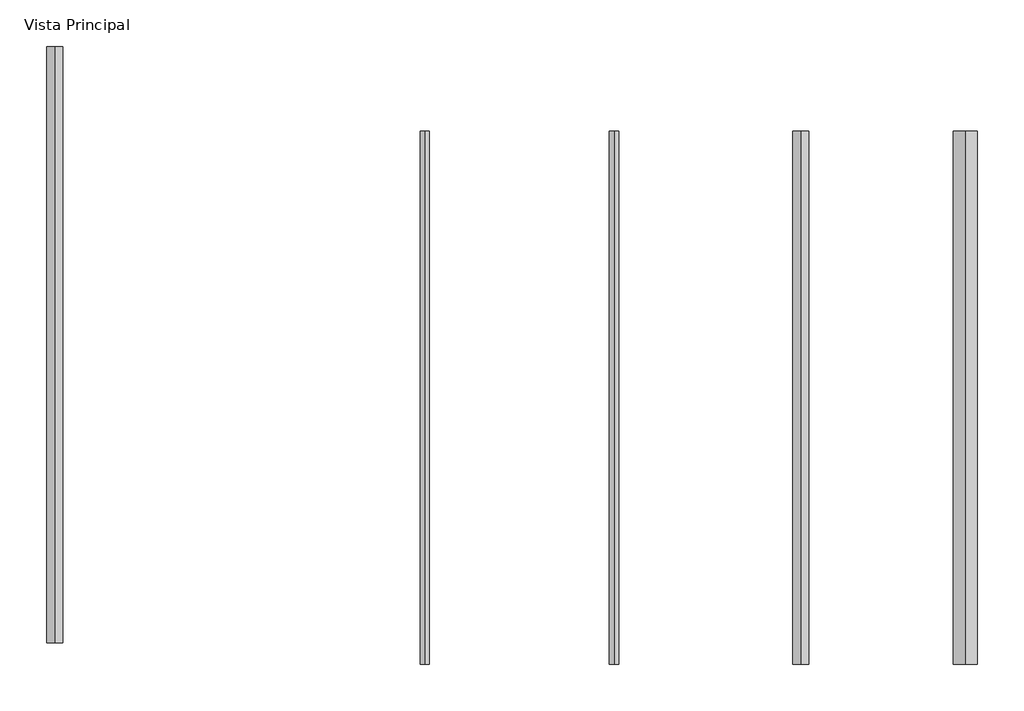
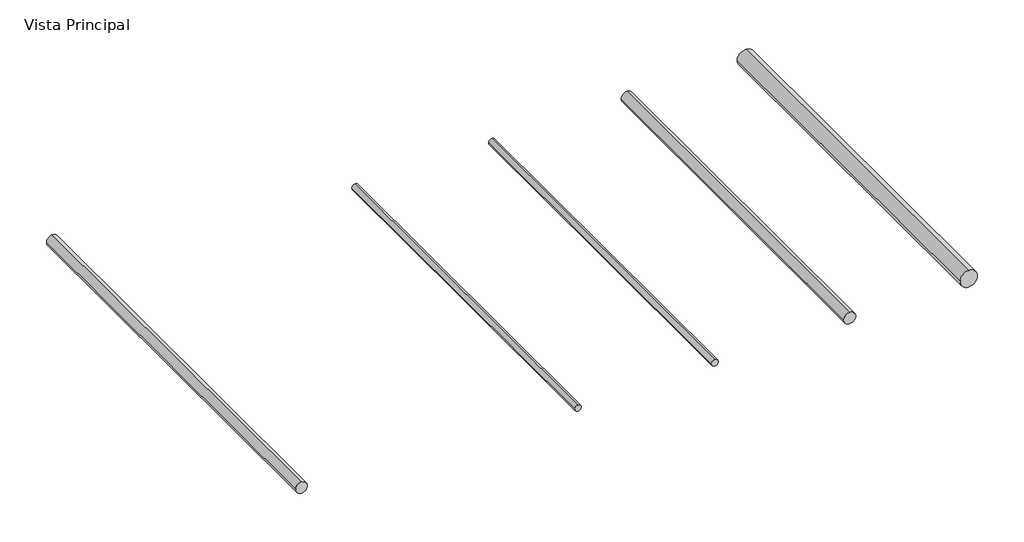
# One storey, incomplete: 5 pipe segments.
"""IFC4 building model written with IfcOpenShell, lengths in millimetres."""

from ifc_helpers import new_model, si_unit, point, frame, frame_2d, origin, place, context, project, spatial, circle_curve, trimmed, segment, composite_curve, outline, extrude, element, save

model = new_model("IFC4")

# Units and contexts
model_context = context("Model", 3, world=origin())
ifc_project = project(units=[si_unit("LENGTHUNIT", "METRE", prefix="MILLI")], contexts=[model_context])

# Site, building, storey
site = spatial("IfcSite", under=ifc_project)
building = spatial("IfcBuilding", under=site)
storey = spatial("IfcBuildingStorey", under=building, Name="Vista Principal", Elevation=0.0)

# Pipe segments
placement = place(None, origin())
element("IfcPipeSegment", 1, ObjectType="AmancoWavin_Tuberías_HidráulicoInglésCementarRD13.5 ½\" - 1 (6 mts)", at=placement, inside=storey, context=model_context, shape_type="SweptSolid", body=[
    extrude(outline(composite_curve([segment(trimmed(circle_curve(frame_2d((1.0, 2057.7041391)), 16.66875), [point((1.0, 2041.0353891))], [point((-15.66875, 2057.7041391))], False, "CARTESIAN"), True, "CONTINUOUS"), segment(trimmed(circle_curve(frame_2d((1.0, 2057.7041391)), 16.66875), [point((-15.66875, 2057.7041391))], [point((1.0, 2074.3728891))], False, "CARTESIAN"), True, "CONTINUOUS"), segment(trimmed(circle_curve(frame_2d((1.0, 2057.7041391)), 16.66875), [point((1.0, 2074.3728891))], [point((17.66875, 2057.7041391))], False, "CARTESIAN"), True, "CONTINUOUS"), segment(trimmed(circle_curve(frame_2d((1.0, 2057.7041391)), 16.66875), [point((17.66875, 2057.7041391))], [point((1.0, 2041.0353891))], False, "CARTESIAN"), True, "CONTINUOUS")], self_intersect=False)), frame((0.0, -1224.0921756, 0.0), z_axis=(0.0, 1.0, 0.0), x_axis=(0.0, 0.0, 1.0)), (0.0, 0.0, 1.0), 1968.1314439),
])
element("IfcPipeSegment", 2, ObjectType="AmancoWavin_Tuberías_HidráulicoInglésCementarRD41 2\" - 4\" (6 mts)", at=placement, inside=storey, context=model_context, shape_type="SweptSolid", body=[
    extrude(outline(composite_curve([segment(trimmed(circle_curve(frame_2d((1.0, 4051.6259569)), 44.45), [point((1.0, 4007.1759569))], [point((-43.45, 4051.6259569))], False, "CARTESIAN"), True, "CONTINUOUS"), segment(trimmed(circle_curve(frame_2d((1.0, 4051.6259569)), 44.45), [point((-43.45, 4051.6259569))], [point((1.0, 4096.0759569))], False, "CARTESIAN"), True, "CONTINUOUS"), segment(trimmed(circle_curve(frame_2d((1.0, 4051.6259569)), 44.45), [point((1.0, 4096.0759569))], [point((45.45, 4051.6259569))], False, "CARTESIAN"), True, "CONTINUOUS"), segment(trimmed(circle_curve(frame_2d((1.0, 4051.6259569)), 44.45), [point((45.45, 4051.6259569))], [point((1.0, 4007.1759569))], False, "CARTESIAN"), True, "CONTINUOUS")], self_intersect=False)), frame((0.0, -1224.0921756, 0.0), z_axis=(0.0, 1.0, 0.0), x_axis=(0.0, 0.0, 1.0)), (0.0, 0.0, 1.0), 1968.1314439),
])
element("IfcPipeSegment", 3, ObjectType="AmancoWavin_Tuberías_HidráulicoInglésCementarRD26 ¾\" - 6\" (6 mts)", at=placement, inside=storey, context=model_context, shape_type="SweptSolid", body=[
    extrude(outline(composite_curve([segment(trimmed(circle_curve(frame_2d((1.0, 3444.5893619)), 30.1625), [point((1.0, 3414.4268619))], [point((-29.1625, 3444.5893619))], False, "CARTESIAN"), True, "CONTINUOUS"), segment(trimmed(circle_curve(frame_2d((1.0, 3444.5893619)), 30.1625), [point((-29.1625, 3444.5893619))], [point((1.0, 3474.7518619))], False, "CARTESIAN"), True, "CONTINUOUS"), segment(trimmed(circle_curve(frame_2d((1.0, 3444.5893619)), 30.1625), [point((1.0, 3474.7518619))], [point((31.1625, 3444.5893619))], False, "CARTESIAN"), True, "CONTINUOUS"), segment(trimmed(circle_curve(frame_2d((1.0, 3444.5893619)), 30.1625), [point((31.1625, 3444.5893619))], [point((1.0, 3414.4268619))], False, "CARTESIAN"), True, "CONTINUOUS")], self_intersect=False)), frame((0.0, -1224.0921756, 0.0), z_axis=(0.0, 1.0, 0.0), x_axis=(0.0, 0.0, 1.0)), (0.0, 0.0, 1.0), 1968.1314439),
])
element("IfcPipeSegment", 4, ObjectType="AmancoWavin_Tuberías_HidráulicoInglésCementarRD21 ½\" - 1 (6 mts)", at=placement, inside=storey, context=model_context, shape_type="SweptSolid", body=[
    extrude(outline(composite_curve([segment(trimmed(circle_curve(frame_2d((1.0, 2755.7434071)), 17.065625), [point((1.0, 2738.6777821))], [point((-16.065625, 2755.7434071))], False, "CARTESIAN"), True, "CONTINUOUS"), segment(trimmed(circle_curve(frame_2d((1.0, 2755.7434071)), 17.065625), [point((-16.065625, 2755.7434071))], [point((1.0, 2772.8090321))], False, "CARTESIAN"), True, "CONTINUOUS"), segment(trimmed(circle_curve(frame_2d((1.0, 2755.7434071)), 17.065625), [point((1.0, 2772.8090321))], [point((18.065625, 2755.7434071))], False, "CARTESIAN"), True, "CONTINUOUS"), segment(trimmed(circle_curve(frame_2d((1.0, 2755.7434071)), 17.065625), [point((18.065625, 2755.7434071))], [point((1.0, 2738.6777821))], False, "CARTESIAN"), True, "CONTINUOUS")], self_intersect=False)), frame((0.0, -1224.0921756, 0.0), z_axis=(0.0, 1.0, 0.0), x_axis=(0.0, 0.0, 1.0)), (0.0, 0.0, 1.0), 1968.1314439),
])
element("IfcPipeSegment", 5, ObjectType="AmancoWavin_Tuberías_Cédula40 ½\" - 6\" (6 mts)", at=placement, inside=storey, context=model_context, shape_type="SweptSolid", body=[
    extrude(outline(composite_curve([segment(trimmed(circle_curve(frame_2d((1.0, 693.2172174)), 30.1625), [point((1.0, 663.0547174))], [point((-29.1625, 693.2172174))], False, "CARTESIAN"), True, "CONTINUOUS"), segment(trimmed(circle_curve(frame_2d((1.0, 693.2172174)), 30.1625), [point((-29.1625, 693.2172174))], [point((1.0, 723.3797174))], False, "CARTESIAN"), True, "CONTINUOUS"), segment(trimmed(circle_curve(frame_2d((1.0, 693.2172174)), 30.1625), [point((1.0, 723.3797174))], [point((31.1625, 693.2172174))], False, "CARTESIAN"), True, "CONTINUOUS"), segment(trimmed(circle_curve(frame_2d((1.0, 693.2172174)), 30.1625), [point((31.1625, 693.2172174))], [point((1.0, 663.0547174))], False, "CARTESIAN"), True, "CONTINUOUS")], self_intersect=False)), frame((0.0, -1144.0921756, 0.0), z_axis=(0.0, 1.0, 0.0), x_axis=(0.0, 0.0, 1.0)), (0.0, 0.0, 1.0), 2200.0),
])

save(model, "model.ifc")
